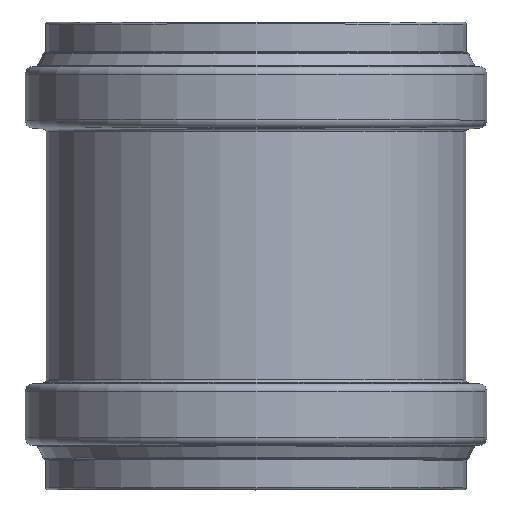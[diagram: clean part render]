
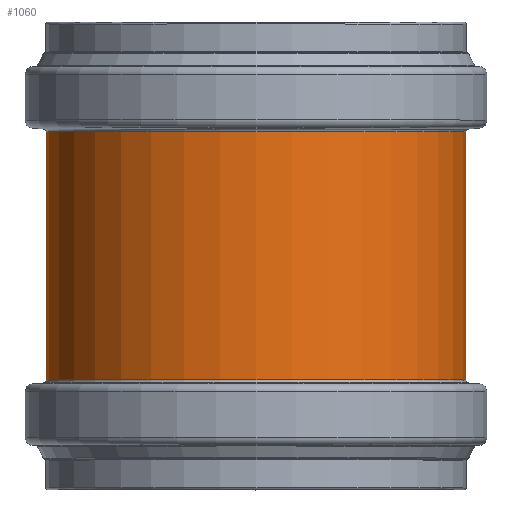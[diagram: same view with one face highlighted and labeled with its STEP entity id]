
A CAD part, top view. The second image highlights one B-rep face of the part: STEP entity #1060.
In plain terms, the highlighted cylindrical face has radius 106.65 mm (diameter 213.3 mm), a full revolution.
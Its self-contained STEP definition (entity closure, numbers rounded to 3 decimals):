
#60=LINE('',#1991,#88);
#88=VECTOR('',#1629,106.65);
#104=CYLINDRICAL_SURFACE('',#1249,106.65);
#152=FACE_OUTER_BOUND('',#215,.T.);
#215=EDGE_LOOP('',(#902,#903,#904,#905,#906,#907));
#335=CIRCLE('',#1247,106.65);
#336=CIRCLE('',#1248,106.65);
#337=CIRCLE('',#1250,106.65);
#338=CIRCLE('',#1251,106.65);
#454=VERTEX_POINT('',#1981);
#455=VERTEX_POINT('',#1983);
#456=VERTEX_POINT('',#1987);
#457=VERTEX_POINT('',#1988);
#608=EDGE_CURVE('',#455,#454,#335,.T.);
#609=EDGE_CURVE('',#454,#455,#336,.T.);
#610=EDGE_CURVE('',#456,#457,#337,.T.);
#611=EDGE_CURVE('',#457,#456,#338,.T.);
#612=EDGE_CURVE('',#457,#455,#60,.T.);
#902=ORIENTED_EDGE('',*,*,#610,.F.);
#903=ORIENTED_EDGE('',*,*,#611,.F.);
#904=ORIENTED_EDGE('',*,*,#612,.T.);
#905=ORIENTED_EDGE('',*,*,#608,.T.);
#906=ORIENTED_EDGE('',*,*,#609,.T.);
#907=ORIENTED_EDGE('',*,*,#612,.F.);
#1060=ADVANCED_FACE('',(#152),#104,.T.);
#1247=AXIS2_PLACEMENT_3D('',#1984,#1619,#1620);
#1248=AXIS2_PLACEMENT_3D('',#1985,#1621,#1622);
#1249=AXIS2_PLACEMENT_3D('',#1986,#1623,#1624);
#1250=AXIS2_PLACEMENT_3D('',#1989,#1625,#1626);
#1251=AXIS2_PLACEMENT_3D('',#1990,#1627,#1628);
#1619=DIRECTION('center_axis',(0.,1.,0.));
#1620=DIRECTION('ref_axis',(1.,0.,0.));
#1621=DIRECTION('center_axis',(0.,1.,0.));
#1622=DIRECTION('ref_axis',(1.,0.,0.));
#1623=DIRECTION('center_axis',(0.,1.,0.));
#1624=DIRECTION('ref_axis',(-1.,0.,0.));
#1625=DIRECTION('center_axis',(0.,1.,0.));
#1626=DIRECTION('ref_axis',(1.,0.,0.));
#1627=DIRECTION('center_axis',(0.,1.,0.));
#1628=DIRECTION('ref_axis',(1.,0.,0.));
#1629=DIRECTION('',(0.,-1.,0.));
#1981=CARTESIAN_POINT('',(0.,-63.079,-106.65));
#1983=CARTESIAN_POINT('',(106.65,-63.079,0.));
#1984=CARTESIAN_POINT('Origin',(0.,-63.079,
0.));
#1985=CARTESIAN_POINT('Origin',(0.,-63.079,
0.));
#1986=CARTESIAN_POINT('Origin',(0.,0.,0.));
#1987=CARTESIAN_POINT('',(0.,63.079,-106.65));
#1988=CARTESIAN_POINT('',(106.65,63.079,0.));
#1989=CARTESIAN_POINT('Origin',(0.,63.079,0.));
#1990=CARTESIAN_POINT('Origin',(0.,63.079,0.));
#1991=CARTESIAN_POINT('',(106.65,0.,0.));
